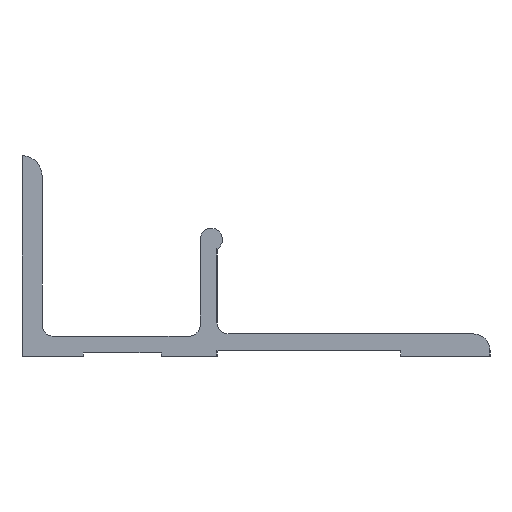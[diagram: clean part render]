
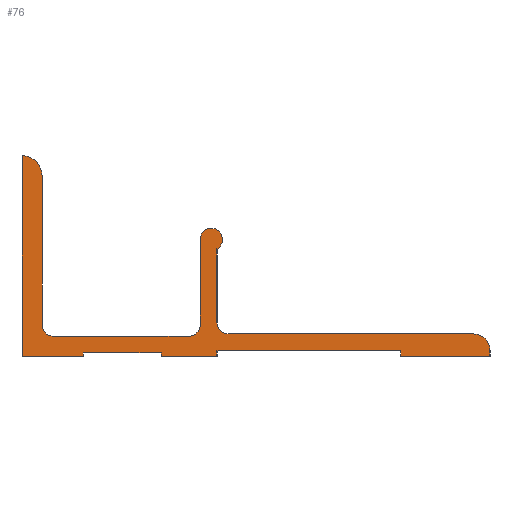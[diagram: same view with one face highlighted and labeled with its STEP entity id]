
A CAD part, left-side view. The second image highlights one B-rep face of the part: STEP entity #76.
In plain terms, the highlighted planar face has unit normal (-1, 0, 0).
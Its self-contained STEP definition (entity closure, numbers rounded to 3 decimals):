
#76 = ADVANCED_FACE( '', ( #155 ), #156, .F. );
#155 = FACE_OUTER_BOUND( '', #234, .T. );
#156 = PLANE( '', #235 );
#234 = EDGE_LOOP( '', ( #395, #396, #397, #398, #399, #400, #401, #402, #403, #404, #405, #406, #407, #408, #409, #410, #411, #412, #413, #414, #415, #416 ) );
#235 = AXIS2_PLACEMENT_3D( '', #417, #418, #419 );
#395 = ORIENTED_EDGE( '', *, *, #561, .F. );
#396 = ORIENTED_EDGE( '', *, *, #508, .F. );
#397 = ORIENTED_EDGE( '', *, *, #562, .F. );
#398 = ORIENTED_EDGE( '', *, *, #493, .F. );
#399 = ORIENTED_EDGE( '', *, *, #563, .F. );
#400 = ORIENTED_EDGE( '', *, *, #535, .F. );
#401 = ORIENTED_EDGE( '', *, *, #521, .F. );
#402 = ORIENTED_EDGE( '', *, *, #526, .F. );
#403 = ORIENTED_EDGE( '', *, *, #564, .F. );
#404 = ORIENTED_EDGE( '', *, *, #565, .F. );
#405 = ORIENTED_EDGE( '', *, *, #498, .F. );
#406 = ORIENTED_EDGE( '', *, *, #566, .F. );
#407 = ORIENTED_EDGE( '', *, *, #567, .F. );
#408 = ORIENTED_EDGE( '', *, *, #558, .T. );
#409 = ORIENTED_EDGE( '', *, *, #543, .F. );
#410 = ORIENTED_EDGE( '', *, *, #513, .F. );
#411 = ORIENTED_EDGE( '', *, *, #503, .F. );
#412 = ORIENTED_EDGE( '', *, *, #517, .T. );
#413 = ORIENTED_EDGE( '', *, *, #539, .F. );
#414 = ORIENTED_EDGE( '', *, *, #568, .T. );
#415 = ORIENTED_EDGE( '', *, *, #530, .F. );
#416 = ORIENTED_EDGE( '', *, *, #569, .F. );
#417 = CARTESIAN_POINT( '', ( 0., 0., 16.2 ) );
#418 = DIRECTION( '', ( 1., 0., 0. ) );
#419 = DIRECTION( '', ( 0., 0., -1. ) );
#493 = EDGE_CURVE( '', #583, #584, #585, .T. );
#498 = EDGE_CURVE( '', #592, #593, #594, .T. );
#503 = EDGE_CURVE( '', #601, #602, #603, .T. );
#508 = EDGE_CURVE( '', #610, #611, #612, .T. );
#513 = EDGE_CURVE( '', #602, #619, #620, .T. );
#517 = EDGE_CURVE( '', #601, #625, #626, .T. );
#521 = EDGE_CURVE( '', #631, #632, #633, .T. );
#526 = EDGE_CURVE( '', #640, #631, #641, .T. );
#530 = EDGE_CURVE( '', #646, #647, #648, .T. );
#535 = EDGE_CURVE( '', #632, #655, #656, .T. );
#539 = EDGE_CURVE( '', #661, #625, #662, .T. );
#543 = EDGE_CURVE( '', #619, #667, #668, .T. );
#558 = EDGE_CURVE( '', #688, #667, #689, .T. );
#561 = EDGE_CURVE( '', #611, #692, #693, .T. );
#562 = EDGE_CURVE( '', #584, #610, #694, .T. );
#563 = EDGE_CURVE( '', #655, #583, #695, .T. );
#564 = EDGE_CURVE( '', #696, #640, #697, .T. );
#565 = EDGE_CURVE( '', #593, #696, #698, .T. );
#566 = EDGE_CURVE( '', #699, #592, #700, .T. );
#567 = EDGE_CURVE( '', #688, #699, #701, .T. );
#568 = EDGE_CURVE( '', #661, #647, #702, .T. );
#569 = EDGE_CURVE( '', #692, #646, #703, .T. );
#583 = VERTEX_POINT( '', #717 );
#584 = VERTEX_POINT( '', #718 );
#585 = LINE( '', #719, #720 );
#592 = VERTEX_POINT( '', #730 );
#593 = VERTEX_POINT( '', #731 );
#594 = LINE( '', #732, #733 );
#601 = VERTEX_POINT( '', #743 );
#602 = VERTEX_POINT( '', #744 );
#603 = LINE( '', #745, #746 );
#610 = VERTEX_POINT( '', #756 );
#611 = VERTEX_POINT( '', #757 );
#612 = LINE( '', #758, #759 );
#619 = VERTEX_POINT( '', #769 );
#620 = CIRCLE( '', #770, 1. );
#625 = VERTEX_POINT( '', #776 );
#626 = CIRCLE( '', #777, 1. );
#631 = VERTEX_POINT( '', #783 );
#632 = VERTEX_POINT( '', #784 );
#633 = LINE( '', #785, #786 );
#640 = VERTEX_POINT( '', #796 );
#641 = LINE( '', #797, #798 );
#646 = VERTEX_POINT( '', #805 );
#647 = VERTEX_POINT( '', #806 );
#648 = LINE( '', #807, #808 );
#655 = VERTEX_POINT( '', #818 );
#656 = LINE( '', #819, #820 );
#661 = VERTEX_POINT( '', #827 );
#662 = LINE( '', #828, #829 );
#667 = VERTEX_POINT( '', #836 );
#668 = LINE( '', #837, #838 );
#688 = VERTEX_POINT( '', #866 );
#689 = CIRCLE( '', #867, 1. );
#692 = VERTEX_POINT( '', #871 );
#693 = LINE( '', #872, #873 );
#694 = LINE( '', #874, #875 );
#695 = LINE( '', #876, #877 );
#696 = VERTEX_POINT( '', #878 );
#697 = LINE( '', #879, #880 );
#698 = LINE( '', #881, #882 );
#699 = VERTEX_POINT( '', #883 );
#700 = CIRCLE( '', #884, 1.5 );
#701 = LINE( '', #885, #886 );
#702 = CIRCLE( '', #887, 1. );
#703 = CIRCLE( '', #888, 1.8 );
#717 = CARTESIAN_POINT( '', ( 0., -12.5, 0.3 ) );
#718 = CARTESIAN_POINT( '', ( 0., -5.5, 0.3 ) );
#719 = CARTESIAN_POINT( '', ( 0., -12.5, 0.3 ) );
#720 = VECTOR( '', #904, 1000. );
#730 = CARTESIAN_POINT( '', ( 0., -42., 0.5 ) );
#731 = CARTESIAN_POINT( '', ( 0., -42., 0. ) );
#732 = CARTESIAN_POINT( '', ( 0., -42., 0.5 ) );
#733 = VECTOR( '', #908, 1000. );
#743 = CARTESIAN_POINT( '', ( 0., -16., 2.8 ) );
#744 = CARTESIAN_POINT( '', ( 0., -16., 10.5 ) );
#745 = CARTESIAN_POINT( '', ( 0., -16., 2.8 ) );
#746 = VECTOR( '', #912, 1000. );
#756 = CARTESIAN_POINT( '', ( 0., -5.5, 0. ) );
#757 = CARTESIAN_POINT( '', ( 0., 0., 0. ) );
#758 = CARTESIAN_POINT( '', ( 0., -5.5, 0. ) );
#759 = VECTOR( '', #916, 1000. );
#769 = CARTESIAN_POINT( '', ( 0., -17.5, 9.634 ) );
#770 = AXIS2_PLACEMENT_3D( '', #920, #921, #922 );
#776 = CARTESIAN_POINT( '', ( 0., -15., 1.8 ) );
#777 = AXIS2_PLACEMENT_3D( '', #927, #928, #929 );
#783 = CARTESIAN_POINT( '', ( 0., -17.5, 0.5 ) );
#784 = CARTESIAN_POINT( '', ( 0., -17.5, 0. ) );
#785 = CARTESIAN_POINT( '', ( 0., -17.5, 0.5 ) );
#786 = VECTOR( '', #934, 1000. );
#796 = CARTESIAN_POINT( '', ( 0., -34., 0.5 ) );
#797 = CARTESIAN_POINT( '', ( 0., -34., 0.5 ) );
#798 = VECTOR( '', #938, 1000. );
#805 = CARTESIAN_POINT( '', ( 0., -1.8, 16.2 ) );
#806 = CARTESIAN_POINT( '', ( 0., -1.8, 2.8 ) );
#807 = CARTESIAN_POINT( '', ( 0., -1.8, 16.2 ) );
#808 = VECTOR( '', #941, 1000. );
#818 = CARTESIAN_POINT( '', ( 0., -12.5, 0. ) );
#819 = CARTESIAN_POINT( '', ( 0., -17.5, 0. ) );
#820 = VECTOR( '', #945, 1000. );
#827 = CARTESIAN_POINT( '', ( 0., -2.8, 1.8 ) );
#828 = CARTESIAN_POINT( '', ( 0., -2.8, 1.8 ) );
#829 = VECTOR( '', #948, 1000. );
#836 = CARTESIAN_POINT( '', ( 0., -17.5, 3. ) );
#837 = CARTESIAN_POINT( '', ( 0., -17.5, 9.634 ) );
#838 = VECTOR( '', #951, 1000. );
#866 = CARTESIAN_POINT( '', ( 0., -18.5, 2. ) );
#867 = AXIS2_PLACEMENT_3D( '', #972, #973, #974 );
#871 = CARTESIAN_POINT( '', ( 0., 0., 18. ) );
#872 = CARTESIAN_POINT( '', ( 0., 0., 0. ) );
#873 = VECTOR( '', #976, 1000. );
#874 = CARTESIAN_POINT( '', ( 0., -5.5, 0.3 ) );
#875 = VECTOR( '', #977, 1000. );
#876 = CARTESIAN_POINT( '', ( 0., -12.5, 0. ) );
#877 = VECTOR( '', #978, 1000. );
#878 = CARTESIAN_POINT( '', ( 0., -34., 0. ) );
#879 = CARTESIAN_POINT( '', ( 0., -34., 0. ) );
#880 = VECTOR( '', #979, 1000. );
#881 = CARTESIAN_POINT( '', ( 0., -42., 0. ) );
#882 = VECTOR( '', #980, 1000. );
#883 = CARTESIAN_POINT( '', ( 0., -40.5, 2. ) );
#884 = AXIS2_PLACEMENT_3D( '', #981, #982, #983 );
#885 = CARTESIAN_POINT( '', ( 0., -18.5, 2. ) );
#886 = VECTOR( '', #984, 1000. );
#887 = AXIS2_PLACEMENT_3D( '', #985, #986, #987 );
#888 = AXIS2_PLACEMENT_3D( '', #988, #989, #990 );
#904 = DIRECTION( '', ( 0., 1., 0. ) );
#908 = DIRECTION( '', ( 0., 0., -1. ) );
#912 = DIRECTION( '', ( 0., 0., 1. ) );
#916 = DIRECTION( '', ( 0., 1., 0. ) );
#920 = CARTESIAN_POINT( '', ( 0., -17., 10.5 ) );
#921 = DIRECTION( '', ( 1., 0., 0. ) );
#922 = DIRECTION( '', ( 0., 0., -1. ) );
#927 = CARTESIAN_POINT( '', ( 0., -15., 2.8 ) );
#928 = DIRECTION( '', ( 1., 0., 0. ) );
#929 = DIRECTION( '', ( 0., 0., -1. ) );
#934 = DIRECTION( '', ( 0., 0., -1. ) );
#938 = DIRECTION( '', ( 0., 1., 0. ) );
#941 = DIRECTION( '', ( 0., 0., -1. ) );
#945 = DIRECTION( '', ( 0., 1., 0. ) );
#948 = DIRECTION( '', ( 0., -1., 0. ) );
#951 = DIRECTION( '', ( 0., 0., -1. ) );
#972 = CARTESIAN_POINT( '', ( 0., -18.5, 3. ) );
#973 = DIRECTION( '', ( 1., 0., 0. ) );
#974 = DIRECTION( '', ( 0., 0., -1. ) );
#976 = DIRECTION( '', ( 0., 0., 1. ) );
#977 = DIRECTION( '', ( 0., 0., -1. ) );
#978 = DIRECTION( '', ( 0., 0., 1. ) );
#979 = DIRECTION( '', ( 0., 0., 1. ) );
#980 = DIRECTION( '', ( 0., 1., 0. ) );
#981 = CARTESIAN_POINT( '', ( 0., -40.5, 0.5 ) );
#982 = DIRECTION( '', ( 1., 0., 0. ) );
#983 = DIRECTION( '', ( 0., 0., -1. ) );
#984 = DIRECTION( '', ( 0., -1., 0. ) );
#985 = CARTESIAN_POINT( '', ( 0., -2.8, 2.8 ) );
#986 = DIRECTION( '', ( 1., 0., 0. ) );
#987 = DIRECTION( '', ( 0., 0., -1. ) );
#988 = CARTESIAN_POINT( '', ( 0., 0., 16.2 ) );
#989 = DIRECTION( '', ( 1., 0., 0. ) );
#990 = DIRECTION( '', ( 0., 0., -1. ) );
